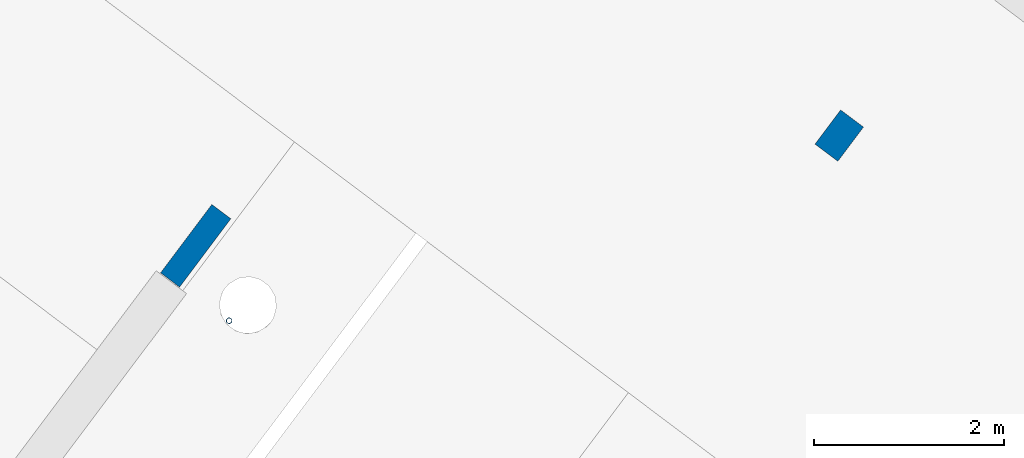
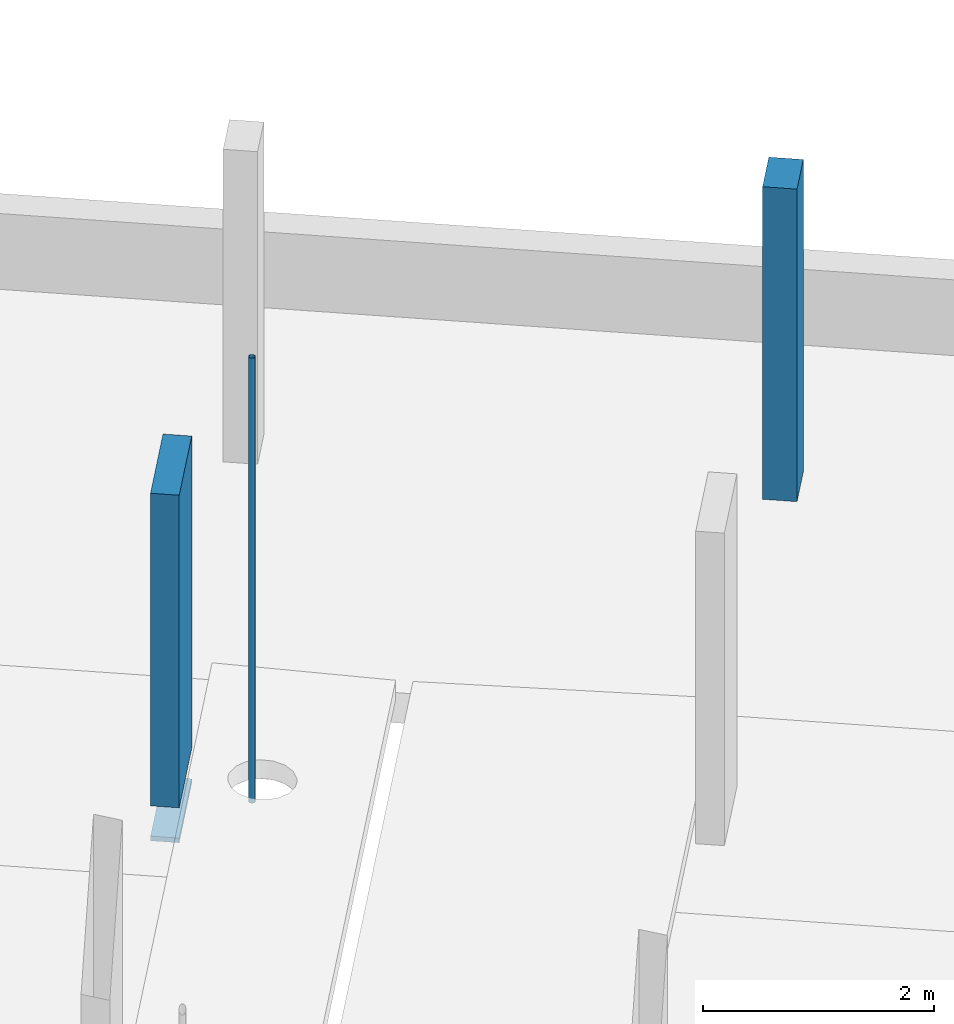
# One storey, part 16 of 24: 3 columns.
"""IFC2X3 building model written with IfcOpenShell, lengths in metres."""

import ifcopenshell
import ifcopenshell.guid

model = None  # the IFC model being written
_history = None  # IfcOwnerHistory: only IFC2X3 demands one
_inside = {}  # id of a spatial element -> (the spatial element, [elements in it])
_under = {}  # id of a project, library or spatial element -> (it, [spatial elements below it])
_declared = {}  # id of a project -> (the project, [libraries it declares])
_typed = {}  # id of a type object -> (the type object, [elements of that type])
_made_of = {}  # id of a material, layer set ... -> (it, [elements and type objects made of it])


def new_model(schema):
    """Start an empty IFC model of exactly this schema.

    Asked for "IFC4X3", IfcOpenShell would pick the latest addendum, in which some entities
    have other attributes; the version numbers below select the first issue.
    IFC2X3 requires an IfcOwnerHistory on every rooted entity: one is made here for all.
    """
    global model, _history
    if schema == "IFC4X3":
        model = ifcopenshell.file(schema_version=(4, 3, 0, 0))
    else:
        model = ifcopenshell.file(schema=schema)
    _inside.clear()
    _under.clear()
    _declared.clear()
    _typed.clear()
    _made_of.clear()
    _history = None
    if model.schema == "IFC2X3":
        org = make("IfcOrganization", Name="unknown")
        user = make(
            "IfcPersonAndOrganization",
            ThePerson=make("IfcPerson", FamilyName="unknown"),
            TheOrganization=org,
        )
        app = make(
            "IfcApplication",
            ApplicationDeveloper=org,
            Version="unknown",
            ApplicationFullName="unknown",
            ApplicationIdentifier="unknown",
        )
        _history = make(
            "IfcOwnerHistory",
            OwningUser=user,
            OwningApplication=app,
            ChangeAction="ADDED",
            CreationDate=0,
        )
    return model


def make(cls, **values):
    """One entity of the class cls with the attributes given. An attribute that is None is left unset."""
    return model.create_entity(
        cls, **{name: value for name, value in values.items() if value is not None}
    )


def entity(cls, *values):
    """Any entity or typed value of the class cls, its attributes in the order of the schema. None: left unset."""
    e = model.create_entity(cls)
    for i, value in enumerate(values):
        if value is not None:
            e[i] = value
    return e


def rooted(cls, **values):
    """An entity with a GlobalId (a new one), such as an element, a storey or a relation."""
    return make(cls, GlobalId=ifcopenshell.guid.new(), OwnerHistory=_history, **values)


def si_unit(unit_type, name, prefix=None):
    """IfcSIUnit, for example si_unit("LENGTHUNIT", "METRE", prefix="MILLI")."""
    return make("IfcSIUnit", UnitType=unit_type, Prefix=prefix, Name=name)


def converted_unit(unit_type, name, factor, base, dimensions=None, offset=None):
    """IfcConversionBasedUnit, such as the inch: factor (a typed value) times the base unit."""
    return make(
        "IfcConversionBasedUnit"
        if offset is None
        else "IfcConversionBasedUnitWithOffset",
        ConversionOffset=offset,
        Dimensions=None
        if dimensions is None
        else entity("IfcDimensionalExponents", *dimensions),
        UnitType=unit_type,
        Name=name,
        ConversionFactor=make(
            "IfcMeasureWithUnit", ValueComponent=factor, UnitComponent=base
        ),
    )


def derived_unit(unit_type, elements):
    """IfcDerivedUnit: a product of units, each with its exponent."""
    return make(
        "IfcDerivedUnit",
        Elements=[
            make("IfcDerivedUnitElement", Unit=unit, Exponent=power)
            for unit, power in elements
        ],
        UnitType=unit_type,
    )


def assignment(units):
    """IfcUnitAssignment: the units of a project."""
    return None if units is None else make("IfcUnitAssignment", Units=units)


def point(xyz):
    """IfcCartesianPoint."""
    return None if xyz is None else make("IfcCartesianPoint", Coordinates=xyz)


def direction(xyz):
    """IfcDirection."""
    return None if xyz is None else make("IfcDirection", DirectionRatios=xyz)


def frame(location, z_axis=None, x_axis=None):
    """IfcAxis2Placement3D, a coordinate frame: its origin and axes. An axis left out is left unset."""
    return make(
        "IfcAxis2Placement3D",
        Location=point(location),
        Axis=direction(z_axis),
        RefDirection=direction(x_axis),
    )


def frame_2d(location, x_axis=None):
    """IfcAxis2Placement2D, a coordinate frame in the plane: its origin and x axis."""
    return make(
        "IfcAxis2Placement2D", Location=point(location), RefDirection=direction(x_axis)
    )


def origin():
    """The frame at (0, 0, 0) with its axes left unset."""
    return frame((0.0, 0.0, 0.0))


def origin_2d_with_axis():
    """The frame at (0, 0) in the plane with the x axis (1, 0) written out."""
    return frame_2d((0.0, 0.0), x_axis=(1.0, 0.0))


def place(relative_to, where):
    """IfcLocalPlacement: puts the frame where relative to a parent placement (None: the world)."""
    return make(
        "IfcLocalPlacement", PlacementRelTo=relative_to, RelativePlacement=where
    )


def context(
    kind, dimensions, precision=None, world=None, true_north=None, identifier=None
):
    """IfcGeometricRepresentationContext, for example the 3D "Model" context."""
    return make(
        "IfcGeometricRepresentationContext",
        ContextIdentifier=identifier,
        ContextType=kind,
        CoordinateSpaceDimension=dimensions,
        Precision=precision,
        WorldCoordinateSystem=world,
        TrueNorth=true_north,
    )


def subcontext(parent, identifier, kind, view, scale=None):
    """IfcGeometricRepresentationSubContext, for example "Body" below "Model"."""
    return make(
        "IfcGeometricRepresentationSubContext",
        ContextIdentifier=identifier,
        ContextType=kind,
        ParentContext=parent,
        TargetScale=scale,
        TargetView=view,
    )


def project(units=None, contexts=None):
    """IfcProject with its units and contexts."""
    return rooted(
        "IfcProject",
        Name="project",
        RepresentationContexts=contexts,
        UnitsInContext=assignment(units),
    )


def spatial(cls, under=None, at=None, **own):
    """A site, building, storey or space (cls), placed at a placement, below another one or the project."""
    s = rooted(cls, ObjectPlacement=at, **own)
    if under is not None:
        _under.setdefault(under.id(), (under, []))[1].append(s)
    return s


def profile(cls, at=None, kind="AREA", **sizes):
    """A parametric profile (cls). Its sizes go by their IFC names, for example OverallWidth=200.0."""
    return make(cls, ProfileType=kind, Position=at, **sizes)


def rectangle(**sizes):
    """IfcRectangleProfileDef."""
    return profile("IfcRectangleProfileDef", **sizes)


def hollow_circle(**sizes):
    """IfcCircleHollowProfileDef."""
    return profile("IfcCircleHollowProfileDef", **sizes)


def extrude(swept, where, along, depth):
    """IfcExtrudedAreaSolid: the profile swept, set in the frame where, extruded along a direction by depth."""
    return make(
        "IfcExtrudedAreaSolid",
        SweptArea=swept,
        Position=where,
        ExtrudedDirection=direction(along),
        Depth=depth,
    )


def shape(context_of_items, identifier, shape_type, items):
    """IfcShapeRepresentation: the items that make up one representation, for example the "Body"."""
    return make(
        "IfcShapeRepresentation",
        ContextOfItems=context_of_items,
        RepresentationIdentifier=identifier,
        RepresentationType=shape_type,
        Items=items,
    )


def source(mapping_origin, context_of_items, identifier, shape_type, items):
    """IfcRepresentationMap: a shape defined once, which mapped items show again and again."""
    return make(
        "IfcRepresentationMap",
        MappingOrigin=mapping_origin,
        MappedRepresentation=shape(context_of_items, identifier, shape_type, items),
    )


def transform(
    local_origin,
    x_axis=None,
    y_axis=None,
    z_axis=None,
    scale=None,
    scale2=None,
    scale3=None,
    uniform=True,
):
    """IfcCartesianTransformationOperator3D, or its non-uniform kind. x_axis, y_axis, z_axis: its Axis1, 2, 3."""
    if uniform:
        return make(
            "IfcCartesianTransformationOperator3D",
            Axis1=direction(x_axis),
            Axis2=direction(y_axis),
            LocalOrigin=point(local_origin),
            Scale=scale,
            Axis3=direction(z_axis),
        )
    return make(
        "IfcCartesianTransformationOperator3DnonUniform",
        Axis1=direction(x_axis),
        Axis2=direction(y_axis),
        LocalOrigin=point(local_origin),
        Scale=scale,
        Axis3=direction(z_axis),
        Scale2=scale2,
        Scale3=scale3,
    )


def mapped(mapping_source, mapping_target):
    """IfcMappedItem: shows the shape of a source again, moved by a transform."""
    return make(
        "IfcMappedItem", MappingSource=mapping_source, MappingTarget=mapping_target
    )


def material(Name=None, Category=None):
    """IfcMaterial."""
    return make("IfcMaterial", Name=Name, Category=Category)


def made_of(thing, what):
    """Note that an element or type object is made of a material, layer set ...; save() writes the relation."""
    if what is not None:
        _made_of.setdefault(what.id(), (what, []))[1].append(thing)
    return thing


def type_object(cls, material=None, **own):
    """A type object (cls), such as IfcWallType, which elements share."""
    return made_of(rooted(cls, **own), material)


def type_shapes(of_type, sources):
    """Give a type object the sources (RepresentationMaps) that its elements show as mapped items."""
    of_type.RepresentationMaps = sources


def element(
    cls,
    number,
    at=None,
    inside=None,
    cuts=None,
    type_object=None,
    material=None,
    context=None,
    identifier="Body",
    shape_type=None,
    held_by="IfcProductDefinitionShape",
    body=None,
    shapes=None,
    **own,
):
    """One element of the class cls, such as IfcWall. Its Tag is "e" and its number.

    at: its placement. inside: the storey or other place that contains it. cuts: it is an
    opening in that element (IfcRelVoidsElement). A single representation is given by context,
    identifier, shape_type and body (its items); several are given by shapes. held_by: the class
    of the entity that holds the representations. save() writes the other relations.
    """
    e = rooted(cls, Tag="e%d" % number, ObjectPlacement=at, **own)
    if body is not None:
        shapes = [shape(context, identifier, shape_type, body)]
    if shapes is not None:
        e.Representation = make(held_by, Representations=shapes)
    if inside is not None:
        _inside.setdefault(inside.id(), (inside, []))[1].append(e)
    if cuts is not None:
        rooted(
            "IfcRelVoidsElement", RelatingBuildingElement=cuts, RelatedOpeningElement=e
        )
    if type_object is not None:
        _typed.setdefault(type_object.id(), (type_object, []))[1].append(e)
    return made_of(e, material)


def aggregate(whole, parts):
    """IfcRelAggregates: a whole, such as a stair, and the parts it consists of."""
    return rooted("IfcRelAggregates", RelatingObject=whole, RelatedObjects=parts)


def save(model, path):
    """Write the relations noted so far, then the file.

    IfcRelAggregates (storeys below a building ...), IfcRelContainedInSpatialStructure (elements
    in a storey), IfcRelDefinesByType, IfcRelAssociatesMaterial and IfcRelDeclares: one each for
    every whole, place, type object, material and project.
    """
    for whole, parts in _under.values():
        aggregate(whole, parts)
    for where, things in _inside.values():
        rooted(
            "IfcRelContainedInSpatialStructure",
            RelatedElements=things,
            RelatingStructure=where,
        )
    for kind, things in _typed.values():
        rooted("IfcRelDefinesByType", RelatedObjects=things, RelatingType=kind)
    for what, things in _made_of.values():
        rooted("IfcRelAssociatesMaterial", RelatedObjects=things, RelatingMaterial=what)
    for by, libraries in _declared.values():
        rooted("IfcRelDeclares", RelatingContext=by, RelatedDefinitions=libraries)
    model.write(path)


model = new_model("IFC2X3")

# Units and contexts
model_context = context("Model", 3, precision=1e-05, world=origin(), true_north=direction((6.123031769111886e-17, 1.0)))
body_context = subcontext(model_context, "Body", "Model", "MODEL_VIEW")
ifc_project = project(units=[si_unit("LENGTHUNIT", "METRE"), si_unit("AREAUNIT", "SQUARE_METRE"), si_unit("VOLUMEUNIT", "CUBIC_METRE"), converted_unit("PLANEANGLEUNIT", "DEGREE", entity("IfcRatioMeasure", 0.017453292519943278), si_unit("PLANEANGLEUNIT", "RADIAN"), dimensions=[0, 0, 0, 0, 0, 0, 0]), si_unit("MASSUNIT", "GRAM", prefix="KILO"), derived_unit("MASSDENSITYUNIT", [(si_unit("MASSUNIT", "GRAM", prefix="KILO"), 1), (si_unit("LENGTHUNIT", "METRE"), -3)]), derived_unit("IONCONCENTRATIONUNIT", [(si_unit("MASSUNIT", "GRAM", prefix="KILO"), 1), (si_unit("LENGTHUNIT", "METRE"), -3)]), derived_unit("MOMENTOFINERTIAUNIT", [(si_unit("LENGTHUNIT", "METRE"), 4)]), si_unit("TIMEUNIT", "SECOND"), si_unit("FREQUENCYUNIT", "HERTZ"), si_unit("THERMODYNAMICTEMPERATUREUNIT", "DEGREE_CELSIUS"), derived_unit("THERMALTRANSMITTANCEUNIT", [(si_unit("MASSUNIT", "GRAM", prefix="KILO"), 1), (si_unit("THERMODYNAMICTEMPERATUREUNIT", "KELVIN"), -1), (si_unit("TIMEUNIT", "SECOND"), -3)]), derived_unit("THERMALCONDUCTANCEUNIT", [(si_unit("MASSUNIT", "GRAM", prefix="KILO"), 1), (si_unit("THERMODYNAMICTEMPERATUREUNIT", "KELVIN"), -1), (si_unit("TIMEUNIT", "SECOND"), -3), (si_unit("LENGTHUNIT", "METRE"), 1)]), derived_unit("VOLUMETRICFLOWRATEUNIT", [(si_unit("LENGTHUNIT", "METRE"), 3), (si_unit("TIMEUNIT", "SECOND"), -1)]), derived_unit("MASSFLOWRATEUNIT", [(si_unit("MASSUNIT", "GRAM", prefix="KILO"), 1), (si_unit("TIMEUNIT", "SECOND"), -1)]), derived_unit("ROTATIONALFREQUENCYUNIT", [(si_unit("TIMEUNIT", "SECOND"), -1)]), si_unit("ELECTRICCURRENTUNIT", "AMPERE"), si_unit("ELECTRICVOLTAGEUNIT", "VOLT"), si_unit("POWERUNIT", "WATT"), si_unit("FORCEUNIT", "NEWTON", prefix="KILO"), si_unit("ILLUMINANCEUNIT", "LUX"), si_unit("LUMINOUSFLUXUNIT", "LUMEN"), si_unit("LUMINOUSINTENSITYUNIT", "CANDELA"), derived_unit("USERDEFINED", [(si_unit("MASSUNIT", "GRAM", prefix="KILO"), -1), (si_unit("LENGTHUNIT", "METRE"), -2), (si_unit("TIMEUNIT", "SECOND"), 3), (si_unit("LUMINOUSFLUXUNIT", "LUMEN"), 1)]), derived_unit("USERDEFINED", [(si_unit("MASSUNIT", "GRAM", prefix="KILO"), 1), (si_unit("TIMEUNIT", "SECOND"), -3), (si_unit("LENGTHUNIT", "METRE"), 3), (si_unit("ELECTRICCURRENTUNIT", "AMPERE"), -2)]), derived_unit("SOUNDPOWERUNIT", [(si_unit("MASSUNIT", "GRAM", prefix="KILO"), 1), (si_unit("TIMEUNIT", "SECOND"), -3), (si_unit("LENGTHUNIT", "METRE"), 2)]), derived_unit("SOUNDPRESSUREUNIT", [(si_unit("MASSUNIT", "GRAM", prefix="KILO"), 1), (si_unit("LENGTHUNIT", "METRE"), -1), (si_unit("TIMEUNIT", "SECOND"), -2)]), derived_unit("LINEARVELOCITYUNIT", [(si_unit("LENGTHUNIT", "METRE"), 1), (si_unit("TIMEUNIT", "SECOND"), -1)]), si_unit("PRESSUREUNIT", "PASCAL"), derived_unit("USERDEFINED", [(si_unit("MASSUNIT", "GRAM", prefix="KILO"), 1), (si_unit("LENGTHUNIT", "METRE"), -2), (si_unit("TIMEUNIT", "SECOND"), -2)]), derived_unit("LINEARFORCEUNIT", [(si_unit("MASSUNIT", "GRAM", prefix="KILO"), 1), (si_unit("TIMEUNIT", "SECOND"), -2)]), derived_unit("PLANARFORCEUNIT", [(si_unit("MASSUNIT", "GRAM", prefix="KILO"), 1), (si_unit("LENGTHUNIT", "METRE"), -1), (si_unit("TIMEUNIT", "SECOND"), -2)]), derived_unit("SPECIFICHEATCAPACITYUNIT", [(si_unit("THERMODYNAMICTEMPERATUREUNIT", "KELVIN"), -1), (si_unit("LENGTHUNIT", "METRE"), 2), (si_unit("TIMEUNIT", "SECOND"), -2)]), derived_unit("HEATINGVALUEUNIT", [(si_unit("LENGTHUNIT", "METRE"), 2), (si_unit("TIMEUNIT", "SECOND"), -2)]), derived_unit("VAPORPERMEABILITYUNIT", [(si_unit("LENGTHUNIT", "METRE"), -1), (si_unit("TIMEUNIT", "SECOND"), 1)]), derived_unit("DYNAMICVISCOSITYUNIT", [(si_unit("MASSUNIT", "GRAM", prefix="KILO"), 1), (si_unit("TIMEUNIT", "SECOND"), -1), (si_unit("LENGTHUNIT", "METRE"), -1)]), derived_unit("THERMALEXPANSIONCOEFFICIENTUNIT", [(si_unit("THERMODYNAMICTEMPERATUREUNIT", "KELVIN"), -1)]), derived_unit("MODULUSOFELASTICITYUNIT", [(si_unit("MASSUNIT", "GRAM", prefix="KILO"), 1), (si_unit("LENGTHUNIT", "METRE"), -1), (si_unit("TIMEUNIT", "SECOND"), -2)]), derived_unit("ISOTHERMALMOISTURECAPACITYUNIT", [(si_unit("LENGTHUNIT", "METRE"), 3), (si_unit("MASSUNIT", "GRAM", prefix="KILO"), -1)]), derived_unit("MOISTUREDIFFUSIVITYUNIT", [(si_unit("TIMEUNIT", "SECOND"), -1), (si_unit("LENGTHUNIT", "METRE"), 2)])], contexts=[model_context])

# Site, building, storey
site_placement = place(None, origin())
site = spatial("IfcSite", under=ifc_project, at=site_placement, Name="Default", CompositionType="ELEMENT")
building_placement = place(site_placement, frame((0.0, 0.0, 235.0), z_axis=(0.0, 0.0, 1.0), x_axis=(-0.7996477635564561, 0.6004693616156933, 0.0)))
building = spatial("IfcBuilding", under=site, at=building_placement, CompositionType="ELEMENT")
storey_placement = place(building_placement, origin())
storey = spatial("IfcBuildingStorey", under=building, at=storey_placement, Name="P0- Escola", CompositionType="ELEMENT", Elevation=0.0)

# Columns
ifc_material_1 = material(Name="_Formigó- T1- STR")
column_type_1 = type_object("IfcColumnType", Name="STR- P- Formigó- Rectangular- T1:30x45cm", PredefinedType="COLUMN", material=ifc_material_1)
shared_shape_1 = source(origin(), body_context, "Body", "SweptSolid", [
    extrude(rectangle(XDim=0.4500000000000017, YDim=0.3000000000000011, at=origin_2d_with_axis()), frame((49.19514768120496, -39.91519175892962, -0.2), z_axis=(0.0, 0.0, 1.0), x_axis=(0.0, -1.0, 0.0)), (0.0, 0.0, 1.0), 3.3000000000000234),
])
type_shapes(column_type_1, [shared_shape_1])
column_1_placement = place(storey_placement, origin())
element("IfcColumn", 1, at=column_1_placement, inside=storey, type_object=column_type_1, material=ifc_material_1, Name="STR- P- Formigó- Rectangular- T1:30x45cm", ObjectType="STR- P- Formigó- Rectangular- T1:30x45cm", context=body_context, shape_type="MappedRepresentation", body=[
    mapped(shared_shape_1, transform((0.0, 0.0, 0.0), scale=1.0)),
])
column_type_2 = type_object("IfcColumnType", Name="STR- P- Formigó- Rectangular- T1:25x90cm", PredefinedType="COLUMN", material=ifc_material_1)
shared_shape_2 = source(origin(), body_context, "Body", "SweptSolid", [
    extrude(rectangle(XDim=0.899999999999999, YDim=0.25000000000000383, at=origin_2d_with_axis()), frame((53.92014768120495, -34.915191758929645, -0.57), z_axis=(0.0, 0.0, 1.0), x_axis=(0.0, -1.0, 0.0)), (0.0, 0.0, 1.0), 0.05000000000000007),
    extrude(rectangle(XDim=0.899999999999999, YDim=0.25000000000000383, at=origin_2d_with_axis()), frame((53.92014768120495, -34.915191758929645, -0.2), z_axis=(0.0, 0.0, 1.0), x_axis=(0.0, -1.0, 0.0)), (0.0, 0.0, 1.0), 3.3000000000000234),
])
type_shapes(column_type_2, [shared_shape_2])
column_2_placement = place(storey_placement, origin())
element("IfcColumn", 2, at=column_2_placement, inside=storey, type_object=column_type_2, material=ifc_material_1, Name="STR- P- Formigó- Rectangular- T1:25x90cm", ObjectType="STR- P- Formigó- Rectangular- T1:25x90cm", context=body_context, shape_type="MappedRepresentation", body=[
    mapped(shared_shape_2, transform((0.0, 0.0, 0.0), scale=1.0)),
])
ifc_material_2 = material(Name="Metal - Acero - 345 MPa")
column_type_3 = type_object("IfcColumnType", Name="STR- P- Acer- CHS- Circular- T1:60.3 x 3CHS", PredefinedType="COLUMN", material=ifc_material_2)
shared_shape_3 = source(origin(), body_context, "Body", "SweptSolid", [
    extrude(hollow_circle(Radius=0.03014999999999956, WallThickness=0.0029999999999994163, at=frame_2d((-4.81877898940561e-19, 4.854464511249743e-17), x_axis=(1.0, 0.0))), frame((0.0, 0.0, -0.1)), (0.0, 0.0, 1.0), 4.700000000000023),
])
type_shapes(column_type_3, [shared_shape_3])
column_3_placement = place(storey_placement, frame((53.16514768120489, -34.49519175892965, 0.0)))
element("IfcColumn", 3, at=column_3_placement, inside=storey, type_object=column_type_3, material=ifc_material_2, Name="STR- P- Acer- CHS- Circular- T1:60.3 x 3CHS", ObjectType="STR- P- Acer- CHS- Circular- T1:60.3 x 3CHS", context=body_context, shape_type="MappedRepresentation", body=[
    mapped(shared_shape_3, transform((0.0, 0.0, 0.0), scale=1.0)),
])

save(model, "model.ifc")
